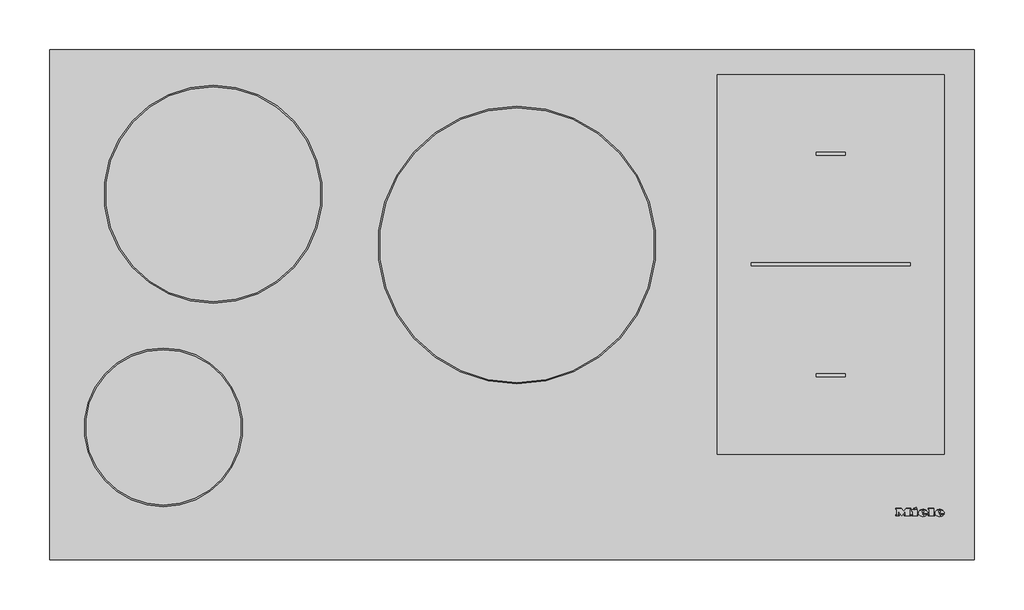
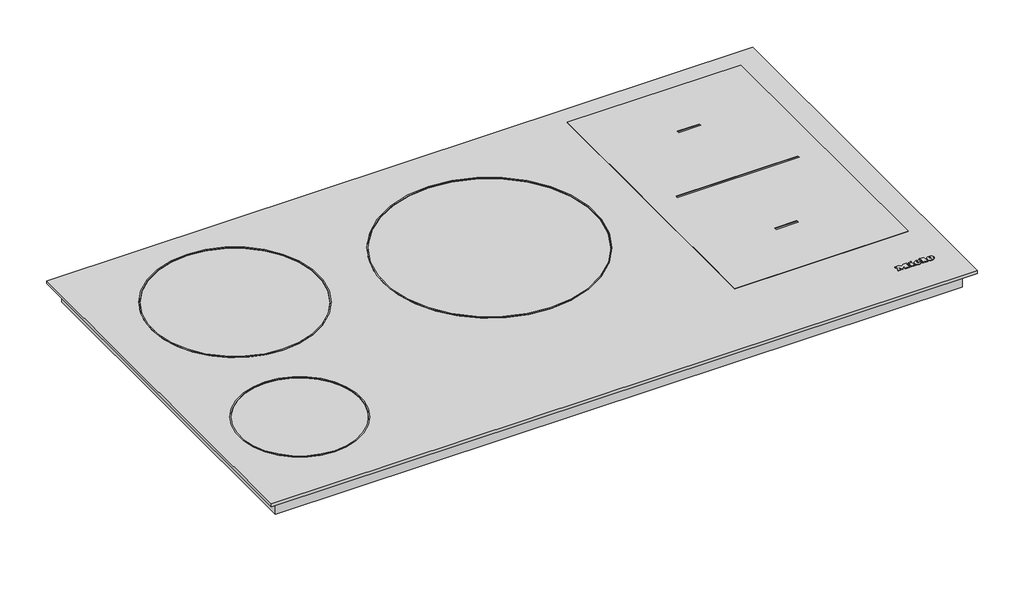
# Not in any storey: 1 proxy.
"""IFC4 building model written with IfcOpenShell, lengths in millimetres."""

import ifcopenshell
import ifcopenshell.guid

model = None  # the IFC model being written
_history = None  # IfcOwnerHistory: only IFC2X3 demands one
_inside = {}  # id of a spatial element -> (the spatial element, [elements in it])
_under = {}  # id of a project, library or spatial element -> (it, [spatial elements below it])
_declared = {}  # id of a project -> (the project, [libraries it declares])
_typed = {}  # id of a type object -> (the type object, [elements of that type])
_made_of = {}  # id of a material, layer set ... -> (it, [elements and type objects made of it])


def new_model(schema):
    """Start an empty IFC model of exactly this schema.

    Asked for "IFC4X3", IfcOpenShell would pick the latest addendum, in which some entities
    have other attributes; the version numbers below select the first issue.
    IFC2X3 requires an IfcOwnerHistory on every rooted entity: one is made here for all.
    """
    global model, _history
    if schema == "IFC4X3":
        model = ifcopenshell.file(schema_version=(4, 3, 0, 0))
    else:
        model = ifcopenshell.file(schema=schema)
    _inside.clear()
    _under.clear()
    _declared.clear()
    _typed.clear()
    _made_of.clear()
    _history = None
    if model.schema == "IFC2X3":
        org = make("IfcOrganization", Name="unknown")
        user = make(
            "IfcPersonAndOrganization",
            ThePerson=make("IfcPerson", FamilyName="unknown"),
            TheOrganization=org,
        )
        app = make(
            "IfcApplication",
            ApplicationDeveloper=org,
            Version="unknown",
            ApplicationFullName="unknown",
            ApplicationIdentifier="unknown",
        )
        _history = make(
            "IfcOwnerHistory",
            OwningUser=user,
            OwningApplication=app,
            ChangeAction="ADDED",
            CreationDate=0,
        )
    return model


def make(cls, **values):
    """One entity of the class cls with the attributes given. An attribute that is None is left unset."""
    return model.create_entity(
        cls, **{name: value for name, value in values.items() if value is not None}
    )


def rooted(cls, **values):
    """An entity with a GlobalId (a new one), such as an element, a storey or a relation."""
    return make(cls, GlobalId=ifcopenshell.guid.new(), OwnerHistory=_history, **values)


def si_unit(unit_type, name, prefix=None):
    """IfcSIUnit, for example si_unit("LENGTHUNIT", "METRE", prefix="MILLI")."""
    return make("IfcSIUnit", UnitType=unit_type, Prefix=prefix, Name=name)


def assignment(units):
    """IfcUnitAssignment: the units of a project."""
    return None if units is None else make("IfcUnitAssignment", Units=units)


def point(xyz):
    """IfcCartesianPoint."""
    return None if xyz is None else make("IfcCartesianPoint", Coordinates=xyz)


def direction(xyz):
    """IfcDirection."""
    return None if xyz is None else make("IfcDirection", DirectionRatios=xyz)


def frame(location, z_axis=None, x_axis=None):
    """IfcAxis2Placement3D, a coordinate frame: its origin and axes. An axis left out is left unset."""
    return make(
        "IfcAxis2Placement3D",
        Location=point(location),
        Axis=direction(z_axis),
        RefDirection=direction(x_axis),
    )


def frame_2d(location, x_axis=None):
    """IfcAxis2Placement2D, a coordinate frame in the plane: its origin and x axis."""
    return make(
        "IfcAxis2Placement2D", Location=point(location), RefDirection=direction(x_axis)
    )


def origin():
    """The frame at (0, 0, 0) with its axes left unset."""
    return frame((0.0, 0.0, 0.0))


def origin_with_axes():
    """The frame at (0, 0, 0) with the z axis (0, 0, 1) and the x axis (1, 0, 0) written out."""
    return frame((0.0, 0.0, 0.0), z_axis=(0.0, 0.0, 1.0), x_axis=(1.0, 0.0, 0.0))


def place(relative_to, where):
    """IfcLocalPlacement: puts the frame where relative to a parent placement (None: the world)."""
    return make(
        "IfcLocalPlacement", PlacementRelTo=relative_to, RelativePlacement=where
    )


def context(
    kind, dimensions, precision=None, world=None, true_north=None, identifier=None
):
    """IfcGeometricRepresentationContext, for example the 3D "Model" context."""
    return make(
        "IfcGeometricRepresentationContext",
        ContextIdentifier=identifier,
        ContextType=kind,
        CoordinateSpaceDimension=dimensions,
        Precision=precision,
        WorldCoordinateSystem=world,
        TrueNorth=true_north,
    )


def project(units=None, contexts=None):
    """IfcProject with its units and contexts."""
    return rooted(
        "IfcProject",
        Name="project",
        RepresentationContexts=contexts,
        UnitsInContext=assignment(units),
    )


def spatial(cls, under=None, at=None, **own):
    """A site, building, storey or space (cls), placed at a placement, below another one or the project."""
    s = rooted(cls, ObjectPlacement=at, **own)
    if under is not None:
        _under.setdefault(under.id(), (under, []))[1].append(s)
    return s


def polyline(points):
    """IfcPolyline through the points."""
    return make("IfcPolyline", Points=[point(p) for p in points])


def circle_curve(where, radius):
    """IfcCircle in the frame where."""
    return make("IfcCircle", Position=where, Radius=radius)


def ellipse_curve(where, semi_axis1, semi_axis2):
    """IfcEllipse in the frame where."""
    return make(
        "IfcEllipse", Position=where, SemiAxis1=semi_axis1, SemiAxis2=semi_axis2
    )


def trimmed(basis, trim1, trim2, sense, master):
    """IfcTrimmedCurve: the piece of a basis curve between two trims."""
    return make(
        "IfcTrimmedCurve",
        BasisCurve=basis,
        Trim1=trim1,
        Trim2=trim2,
        SenseAgreement=sense,
        MasterRepresentation=master,
    )


def segment(curve, same_sense, transition):
    """IfcCompositeCurveSegment."""
    return make(
        "IfcCompositeCurveSegment",
        Transition=transition,
        SameSense=same_sense,
        ParentCurve=curve,
    )


def composite_curve(segments, self_intersect=None):
    """IfcCompositeCurve: segments joined end to end."""
    return make("IfcCompositeCurve", Segments=segments, SelfIntersect=self_intersect)


def outline(outer, holes=None, kind="AREA"):
    """IfcArbitraryClosedProfileDef: a profile drawn as a closed curve; with holes, ...WithVoids."""
    if holes is None:
        return make("IfcArbitraryClosedProfileDef", ProfileType=kind, OuterCurve=outer)
    return make(
        "IfcArbitraryProfileDefWithVoids",
        ProfileType=kind,
        OuterCurve=outer,
        InnerCurves=holes,
    )


def extrude(swept, where, along, depth):
    """IfcExtrudedAreaSolid: the profile swept, set in the frame where, extruded along a direction by depth."""
    return make(
        "IfcExtrudedAreaSolid",
        SweptArea=swept,
        Position=where,
        ExtrudedDirection=direction(along),
        Depth=depth,
    )


def shape(context_of_items, identifier, shape_type, items):
    """IfcShapeRepresentation: the items that make up one representation, for example the "Body"."""
    return make(
        "IfcShapeRepresentation",
        ContextOfItems=context_of_items,
        RepresentationIdentifier=identifier,
        RepresentationType=shape_type,
        Items=items,
    )


def source(mapping_origin, context_of_items, identifier, shape_type, items):
    """IfcRepresentationMap: a shape defined once, which mapped items show again and again."""
    return make(
        "IfcRepresentationMap",
        MappingOrigin=mapping_origin,
        MappedRepresentation=shape(context_of_items, identifier, shape_type, items),
    )


def transform(
    local_origin,
    x_axis=None,
    y_axis=None,
    z_axis=None,
    scale=None,
    scale2=None,
    scale3=None,
    uniform=True,
):
    """IfcCartesianTransformationOperator3D, or its non-uniform kind. x_axis, y_axis, z_axis: its Axis1, 2, 3."""
    if uniform:
        return make(
            "IfcCartesianTransformationOperator3D",
            Axis1=direction(x_axis),
            Axis2=direction(y_axis),
            LocalOrigin=point(local_origin),
            Scale=scale,
            Axis3=direction(z_axis),
        )
    return make(
        "IfcCartesianTransformationOperator3DnonUniform",
        Axis1=direction(x_axis),
        Axis2=direction(y_axis),
        LocalOrigin=point(local_origin),
        Scale=scale,
        Axis3=direction(z_axis),
        Scale2=scale2,
        Scale3=scale3,
    )


def mapped(mapping_source, mapping_target):
    """IfcMappedItem: shows the shape of a source again, moved by a transform."""
    return make(
        "IfcMappedItem", MappingSource=mapping_source, MappingTarget=mapping_target
    )


def made_of(thing, what):
    """Note that an element or type object is made of a material, layer set ...; save() writes the relation."""
    if what is not None:
        _made_of.setdefault(what.id(), (what, []))[1].append(thing)
    return thing


def element(
    cls,
    number,
    at=None,
    inside=None,
    cuts=None,
    type_object=None,
    material=None,
    context=None,
    identifier="Body",
    shape_type=None,
    held_by="IfcProductDefinitionShape",
    body=None,
    shapes=None,
    **own,
):
    """One element of the class cls, such as IfcWall. Its Tag is "e" and its number.

    at: its placement. inside: the storey or other place that contains it. cuts: it is an
    opening in that element (IfcRelVoidsElement). A single representation is given by context,
    identifier, shape_type and body (its items); several are given by shapes. held_by: the class
    of the entity that holds the representations. save() writes the other relations.
    """
    e = rooted(cls, Tag="e%d" % number, ObjectPlacement=at, **own)
    if body is not None:
        shapes = [shape(context, identifier, shape_type, body)]
    if shapes is not None:
        e.Representation = make(held_by, Representations=shapes)
    if inside is not None:
        _inside.setdefault(inside.id(), (inside, []))[1].append(e)
    if cuts is not None:
        rooted(
            "IfcRelVoidsElement", RelatingBuildingElement=cuts, RelatedOpeningElement=e
        )
    if type_object is not None:
        _typed.setdefault(type_object.id(), (type_object, []))[1].append(e)
    return made_of(e, material)


def aggregate(whole, parts):
    """IfcRelAggregates: a whole, such as a stair, and the parts it consists of."""
    return rooted("IfcRelAggregates", RelatingObject=whole, RelatedObjects=parts)


def save(model, path):
    """Write the relations noted so far, then the file.

    IfcRelAggregates (storeys below a building ...), IfcRelContainedInSpatialStructure (elements
    in a storey), IfcRelDefinesByType, IfcRelAssociatesMaterial and IfcRelDeclares: one each for
    every whole, place, type object, material and project.
    """
    for whole, parts in _under.values():
        aggregate(whole, parts)
    for where, things in _inside.values():
        rooted(
            "IfcRelContainedInSpatialStructure",
            RelatedElements=things,
            RelatingStructure=where,
        )
    for kind, things in _typed.values():
        rooted("IfcRelDefinesByType", RelatedObjects=things, RelatingType=kind)
    for what, things in _made_of.values():
        rooted("IfcRelAssociatesMaterial", RelatedObjects=things, RelatingMaterial=what)
    for by, libraries in _declared.values():
        rooted("IfcRelDeclares", RelatingContext=by, RelatedDefinitions=libraries)
    model.write(path)


def plane_surface(at):
    """IfcPlane: the flat surface through the origin of the frame at, square to its z axis."""
    return make("IfcPlane", Position=at)


def cylinder_surface(at, radius):
    """IfcCylindricalSurface: all points at the distance radius from the z axis of the frame at."""
    return make("IfcCylindricalSurface", Position=at, Radius=radius)


def revolved_surface(curve, axis_point, axis_direction):
    """IfcSurfaceOfRevolution: the curve turned about the line through axis_point along axis_direction."""
    return make(
        "IfcSurfaceOfRevolution",
        SweptCurve=make("IfcArbitraryOpenProfileDef", ProfileType="CURVE", Curve=curve),
        AxisPosition=make("IfcAxis1Placement", Location=point(axis_point), Axis=direction(axis_direction)),
    )


def extruded_surface(curve, direction_of_extrusion, depth):
    """IfcSurfaceOfLinearExtrusion: the curve pushed along a direction by depth."""
    return make(
        "IfcSurfaceOfLinearExtrusion",
        SweptCurve=make("IfcArbitraryOpenProfileDef", ProfileType="CURVE", Curve=curve),
        ExtrudedDirection=direction(direction_of_extrusion),
        Depth=depth,
    )


def advanced_brep(points, edges, surfaces, faces):
    """IfcAdvancedBrep: a solid bounded by faces that lie on surfaces and meet in shared edges.

    An edge is (start, end): straight between two places in points (the first is 0);
    or (start, end, curve); or (start, end, curve, False) where it runs against its curve.
    A face is (place in surfaces, loops), or (place, loops, False) where it looks against
    its surface's normal. A loop lists edges by number (the first is 1), with a minus sign
    where the edge is run from its end to its start. The first loop is the outer one.
    """
    corners = [point(p) for p in points]
    vertices = [make("IfcVertexPoint", VertexGeometry=c) for c in corners]
    made = []
    for start, end, *more in edges:
        made.append(
            make(
                "IfcEdgeCurve",
                EdgeStart=vertices[start],
                EdgeEnd=vertices[end],
                EdgeGeometry=more[0] if more else make("IfcPolyline", Points=[corners[start], corners[end]]),
                SameSense=more[1] if len(more) > 1 else True,
            )
        )
    hull = []
    for where, loops, *sense in faces:
        bounds = []
        for j, loop in enumerate(loops):
            ring = [make("IfcOrientedEdge", EdgeElement=made[abs(k) - 1], Orientation=k > 0) for k in loop]
            bounds.append(
                make(
                    "IfcFaceOuterBound" if j == 0 else "IfcFaceBound",
                    Bound=make("IfcEdgeLoop", EdgeList=ring),
                    Orientation=True,
                )
            )
        hull.append(make("IfcAdvancedFace", Bounds=bounds, FaceSurface=surfaces[where], SameSense=sense[0] if sense else True))
    return make("IfcAdvancedBrep", Outer=make("IfcClosedShell", CfsFaces=hull))


def specialty_equipment_fe1162e7(model_context):
    return source(origin(), model_context, "Body", "SolidModel", [
        advanced_brep(
        [(428.648, 45.8948833, 4.9922537), (428.648, 46.7028828, 4.9931551), (434.0, 46.7028828, 4.9931551), (424.688, 46.7028828, 4.9931551), (426.888, 43.9988845, 4.9901386), (433.864, 45.8948833, 4.9922537), (431.448, 45.8948833, 4.9922537), (429.544, 44.9988838, 4.9912542), (428.648, 47.7268821, 4.9942974), (428.648, 48.5988816, 4.9952701), (430.016, 48.5988816, 4.9952701), (430.016, 47.7268821, 4.9942974), (428.648, 45.8959988, 3.9922543), (429.544, 44.9999994, 3.9912548), (431.448, 45.8959988, 3.9922543), (433.864, 45.8959988, 3.9922543), (426.888, 44.0, 3.9901393), (424.688, 46.7039983, 3.9931557), (434.0, 46.7039983, 3.9931557), (428.648, 46.7039983, 3.9931557), (428.648, 47.7279977, 3.994298), (430.016, 47.7279977, 3.994298), (430.016, 48.5999971, 3.9952707), (428.648, 48.5999971, 3.9952707)],
        [
            (0, 1),
            (1, 2),
            (2, 3, ellipse_curve(frame((429.344, 46.7028828, 4.9931551), z_axis=(0.0, -0.0011155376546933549, 0.9999993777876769), x_axis=(-1.0, 0.0, 0.0)), 4.656, 3.848)),
            (3, 4, circle_curve(frame((427.7840436, 46.9748826, 4.9934585), z_axis=(0.0, -0.0011155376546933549, 0.9999993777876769), x_axis=(0.0, -0.9999993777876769, -0.0011155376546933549)), 3.1079688)),
            (4, 5, circle_curve(frame((429.2507936, 49.0868813, 4.9958145), z_axis=(0.0, -0.0011155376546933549, 0.9999993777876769), x_axis=(0.0, -0.9999993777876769, -0.0011155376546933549)), 5.6098607)),
            (5, 6),
            (6, 7, circle_curve(frame((429.9350588, 46.6388828, 4.9930837), z_axis=(0.0, 0.0011155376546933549, -0.9999993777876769), x_axis=(0.0, -0.9999993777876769, -0.0011155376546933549)), 1.6859795)),
            (7, 0, circle_curve(frame((429.544, 45.8948833, 4.9922537), z_axis=(0.0, 0.0011155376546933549, -0.9999993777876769), x_axis=(0.0, -0.9999993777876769, -0.0011155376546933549)), 0.896)),
            (8, 9),
            (9, 10, circle_curve(frame((429.332, 48.5988816, 4.9952701), z_axis=(0.0, 0.0011155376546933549, -0.9999993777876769), x_axis=(0.0, -0.9999993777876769, -0.0011155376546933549)), 0.684)),
            (10, 11),
            (11, 8),
            (12, 13, circle_curve(frame((429.544, 45.8959988, 3.9922543), z_axis=(0.0, -0.0011155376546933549, 0.9999993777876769), x_axis=(0.0, -0.9999993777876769, -0.0011155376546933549)), 0.896)),
            (13, 14, circle_curve(frame((429.9350588, 46.6399984, 3.9930843), z_axis=(0.0, -0.0011155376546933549, 0.9999993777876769), x_axis=(0.0, -0.9999993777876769, -0.0011155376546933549)), 1.6859795)),
            (14, 15),
            (15, 16, circle_curve(frame((429.2507936, 49.0879968, 3.9958151), z_axis=(0.0, 0.0011155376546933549, -0.9999993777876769), x_axis=(0.0, -0.9999993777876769, -0.0011155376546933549)), 5.6098607)),
            (16, 17, circle_curve(frame((427.7840436, 46.9759981, 3.9934591), z_axis=(0.0, 0.0011155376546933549, -0.9999993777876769), x_axis=(0.0, -0.9999993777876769, -0.0011155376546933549)), 3.1079688)),
            (17, 18, ellipse_curve(frame((429.344, 46.7039983, 3.9931557), z_axis=(0.0, 0.0011155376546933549, -0.9999993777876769), x_axis=(-1.0, 0.0, 0.0)), 4.656, 3.848)),
            (18, 19),
            (19, 12),
            (20, 21),
            (21, 22),
            (22, 23, circle_curve(frame((429.332, 48.5999971, 3.9952707), z_axis=(0.0, -0.0011155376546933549, 0.9999993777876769), x_axis=(0.0, -0.9999993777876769, -0.0011155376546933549)), 0.684)),
            (23, 20),
            (0, 12),
            (19, 1),
            (18, 2),
            (5, 15),
            (14, 6),
            (17, 3),
            (13, 7),
            (16, 4),
            (8, 20),
            (23, 9),
            (22, 10),
            (21, 11),
        ],
        [
            plane_surface(frame((428.648, 46.7028828, 4.9931551), z_axis=(0.0, -0.0011155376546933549, 0.9999993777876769), x_axis=(0.0, 0.9999993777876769, 0.0011155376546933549))),
            plane_surface(frame((428.648, 46.7039983, 3.9931557), z_axis=(0.0, 0.0011155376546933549, -0.9999993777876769), x_axis=(0.0, -0.9999993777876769, -0.0011155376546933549))),
            plane_surface(frame((428.648, 45.8948833, 4.9922537), z_axis=(1.0000000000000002, 0.0, 0.0), x_axis=(0.0, 0.001115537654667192, -0.999999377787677))),
            plane_surface(frame((428.648, 46.7028828, 4.9931551), z_axis=(0.0, -0.999999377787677, -0.001115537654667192), x_axis=(0.0, 0.001115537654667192, -0.999999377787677))),
            plane_surface(frame((433.864, 45.8948833, 4.9922537), z_axis=(0.0, 0.999999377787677, 0.001115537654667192), x_axis=(0.0, 0.001115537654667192, -0.999999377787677))),
            extruded_surface(trimmed(ellipse_curve(frame((429.344, 46.7051139, 2.9931563), z_axis=(0.0, -0.0011155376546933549, 0.9999993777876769), x_axis=(-1.0, 0.0, 0.0)), 4.656, 3.848), [point((434.0, 46.7051139, 2.9931563))], [point((424.688, 46.7051139, 2.9931563))], True, "CARTESIAN"), (0.0, -0.001115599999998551, 0.9999994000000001), 1.00000002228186),
            revolved_surface(polyline([(429.9350588, 44.954019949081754, 3.991203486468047), (429.9350588, 44.95290441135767, 4.99120292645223)]), (429.9350588, 46.6399984, 3.9930843), (0.0, 0.0011155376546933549, -0.9999993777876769)),
            revolved_surface(polyline([(429.544, 44.99999935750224, 3.9912547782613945), (429.544, 44.99888381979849, 4.991254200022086)]), (429.544, 45.8959988, 3.9922543), (0.0, 0.0011155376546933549, -0.9999993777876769)),
            cylinder_surface(frame((427.7840436, 46.9759981, 3.9934591), z_axis=(0.0, -0.0011155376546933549, 0.9999993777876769), x_axis=(0.0, -0.9999993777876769, -0.0011155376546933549)), 3.1079688),
            cylinder_surface(frame((429.2507936, 49.0879968, 3.9958151), z_axis=(0.0, -0.0011155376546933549, 0.9999993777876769), x_axis=(0.0, -0.9999993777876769, -0.0011155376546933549)), 5.6098607),
            plane_surface(frame((428.648, 47.7268821, 4.9942974), z_axis=(1.0000000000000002, 0.0, 0.0), x_axis=(0.0, 0.001115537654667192, -0.999999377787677))),
            revolved_surface(polyline([(429.332, 47.915997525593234, 3.9945076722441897), (429.332, 47.91488198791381, 4.994507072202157)]), (429.332, 48.5999971, 3.9952707), (0.0, 0.0011155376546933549, -0.9999993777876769)),
            plane_surface(frame((430.016, 48.5988816, 4.9952701), z_axis=(-1.0000000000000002, 0.0, 0.0), x_axis=(0.0, 0.001115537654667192, -0.999999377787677))),
            plane_surface(frame((430.016, 47.7268821, 4.9942974), z_axis=(0.0, 0.999999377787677, 0.001115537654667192), x_axis=(0.0, 0.001115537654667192, -0.999999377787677))),
        ],
        [
            (0, [[1, 2, 3, 4, 5, 6, 7, 8], [9, 10, 11, 12]]),
            (1, [[13, 14, 15, 16, 17, 18, 19, 20], [21, 22, 23, 24]]),
            (2, [[-1, 25, -20, 26]]),
            (3, [[-2, -26, -19, 27]]),
            (4, [[-6, 28, -15, 29]]),
            (5, [[-3, -27, -18, 30]]),
            (6, [[-7, -29, -14, 31]]),
            (7, [[-8, -31, -13, -25]]),
            (8, [[-4, -30, -17, 32]]),
            (9, [[-5, -32, -16, -28]]),
            (10, [[-9, 33, -24, 34]]),
            (11, [[-10, -34, -23, 35]]),
            (12, [[-11, -35, -22, 36]]),
            (13, [[-12, -36, -21, -33]]),
        ],
    ),
        advanced_brep(
        [(411.952, 45.8948833, 4.9922537), (411.952, 46.7028828, 4.9931551), (417.304, 46.7028828, 4.9931551), (407.992, 46.7028828, 4.9931551), (410.192, 43.9988845, 4.9901386), (417.168, 45.8948833, 4.9922537), (414.752, 45.8948833, 4.9922537), (412.848, 44.9988838, 4.9912542), (411.952, 47.7268821, 4.9942974), (411.952, 48.5988816, 4.9952701), (413.32, 48.5988816, 4.9952701), (413.32, 47.7268821, 4.9942974), (411.952, 45.8959988, 3.9922543), (412.848, 44.9999994, 3.9912548), (414.752, 45.8959988, 3.9922543), (417.168, 45.8959988, 3.9922543), (410.192, 44.0, 3.9901393), (407.992, 46.7039983, 3.9931557), (417.304, 46.7039983, 3.9931557), (411.952, 46.7039983, 3.9931557), (411.952, 47.7279977, 3.994298), (413.32, 47.7279977, 3.994298), (413.32, 48.5999971, 3.9952707), (411.952, 48.5999971, 3.9952707)],
        [
            (0, 1),
            (1, 2),
            (2, 3, ellipse_curve(frame((412.648, 46.7028828, 4.9931551), z_axis=(0.0, -0.0011155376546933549, 0.9999993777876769), x_axis=(-1.0, 0.0, 0.0)), 4.656, 3.848)),
            (3, 4, circle_curve(frame((411.0880436, 46.9748826, 4.9934585), z_axis=(0.0, -0.0011155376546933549, 0.9999993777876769), x_axis=(0.0, -0.9999993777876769, -0.0011155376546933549)), 3.1079688)),
            (4, 5, circle_curve(frame((412.5547936, 49.0868813, 4.9958145), z_axis=(0.0, -0.0011155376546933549, 0.9999993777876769), x_axis=(0.0, -0.9999993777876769, -0.0011155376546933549)), 5.6098607)),
            (5, 6),
            (6, 7, circle_curve(frame((413.2390588, 46.6388828, 4.9930837), z_axis=(0.0, 0.0011155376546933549, -0.9999993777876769), x_axis=(0.0, -0.9999993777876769, -0.0011155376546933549)), 1.6859795)),
            (7, 0, circle_curve(frame((412.848, 45.8948833, 4.9922537), z_axis=(0.0, 0.0011155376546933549, -0.9999993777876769), x_axis=(0.0, -0.9999993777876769, -0.0011155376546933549)), 0.896)),
            (8, 9),
            (9, 10, circle_curve(frame((412.636, 48.5988816, 4.9952701), z_axis=(0.0, 0.0011155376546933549, -0.9999993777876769), x_axis=(0.0, -0.9999993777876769, -0.0011155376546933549)), 0.684)),
            (10, 11),
            (11, 8),
            (12, 13, circle_curve(frame((412.848, 45.8959988, 3.9922543), z_axis=(0.0, -0.0011155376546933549, 0.9999993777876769), x_axis=(0.0, -0.9999993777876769, -0.0011155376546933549)), 0.896)),
            (13, 14, circle_curve(frame((413.2390588, 46.6399984, 3.9930843), z_axis=(0.0, -0.0011155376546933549, 0.9999993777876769), x_axis=(0.0, -0.9999993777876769, -0.0011155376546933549)), 1.6859795)),
            (14, 15),
            (15, 16, circle_curve(frame((412.5547936, 49.0879968, 3.9958151), z_axis=(0.0, 0.0011155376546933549, -0.9999993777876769), x_axis=(0.0, -0.9999993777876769, -0.0011155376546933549)), 5.6098607)),
            (16, 17, circle_curve(frame((411.0880436, 46.9759981, 3.9934591), z_axis=(0.0, 0.0011155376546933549, -0.9999993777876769), x_axis=(0.0, -0.9999993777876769, -0.0011155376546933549)), 3.1079688)),
            (17, 18, ellipse_curve(frame((412.648, 46.7039983, 3.9931557), z_axis=(0.0, 0.0011155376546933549, -0.9999993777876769), x_axis=(-1.0, 0.0, 0.0)), 4.656, 3.848)),
            (18, 19),
            (19, 12),
            (20, 21),
            (21, 22),
            (22, 23, circle_curve(frame((412.636, 48.5999971, 3.9952707), z_axis=(0.0, -0.0011155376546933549, 0.9999993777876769), x_axis=(0.0, -0.9999993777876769, -0.0011155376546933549)), 0.684)),
            (23, 20),
            (0, 12),
            (19, 1),
            (18, 2),
            (5, 15),
            (14, 6),
            (17, 3),
            (13, 7),
            (16, 4),
            (8, 20),
            (23, 9),
            (22, 10),
            (21, 11),
        ],
        [
            plane_surface(frame((411.952, 46.7028828, 4.9931551), z_axis=(0.0, -0.0011155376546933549, 0.9999993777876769), x_axis=(0.0, 0.9999993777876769, 0.0011155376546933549))),
            plane_surface(frame((411.952, 46.7039983, 3.9931557), z_axis=(0.0, 0.0011155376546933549, -0.9999993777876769), x_axis=(0.0, -0.9999993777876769, -0.0011155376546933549))),
            plane_surface(frame((411.952, 45.8948833, 4.9922537), z_axis=(1.0000000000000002, 0.0, 0.0), x_axis=(0.0, 0.001115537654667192, -0.999999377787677))),
            plane_surface(frame((411.952, 46.7028828, 4.9931551), z_axis=(0.0, -0.999999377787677, -0.001115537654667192), x_axis=(0.0, 0.001115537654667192, -0.999999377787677))),
            plane_surface(frame((417.168, 45.8948833, 4.9922537), z_axis=(0.0, 0.999999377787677, 0.001115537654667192), x_axis=(0.0, 0.001115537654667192, -0.999999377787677))),
            extruded_surface(trimmed(ellipse_curve(frame((412.648, 46.7051139, 2.9931563), z_axis=(0.0, -0.0011155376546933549, 0.9999993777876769), x_axis=(-1.0, 0.0, 0.0)), 4.656, 3.848), [point((417.304, 46.7051139, 2.9931563))], [point((407.992, 46.7051139, 2.9931563))], True, "CARTESIAN"), (0.0, -0.001115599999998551, 0.9999994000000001), 1.00000002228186),
            revolved_surface(polyline([(413.2390588, 44.954019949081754, 3.991203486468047), (413.2390588, 44.95290441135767, 4.99120292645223)]), (413.2390588, 46.6399984, 3.9930843), (0.0, 0.0011155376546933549, -0.9999993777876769)),
            revolved_surface(polyline([(412.848, 44.99999935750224, 3.9912547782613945), (412.848, 44.99888381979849, 4.991254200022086)]), (412.848, 45.8959988, 3.9922543), (0.0, 0.0011155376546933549, -0.9999993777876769)),
            cylinder_surface(frame((411.0880436, 46.9759981, 3.9934591), z_axis=(0.0, -0.0011155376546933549, 0.9999993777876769), x_axis=(0.0, -0.9999993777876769, -0.0011155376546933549)), 3.1079688),
            cylinder_surface(frame((412.5547936, 49.0879968, 3.9958151), z_axis=(0.0, -0.0011155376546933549, 0.9999993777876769), x_axis=(0.0, -0.9999993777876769, -0.0011155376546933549)), 5.6098607),
            plane_surface(frame((411.952, 47.7268821, 4.9942974), z_axis=(1.0000000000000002, 0.0, 0.0), x_axis=(0.0, 0.001115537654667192, -0.999999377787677))),
            revolved_surface(polyline([(412.636, 47.915997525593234, 3.9945076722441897), (412.636, 47.91488198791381, 4.994507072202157)]), (412.636, 48.5999971, 3.9952707), (0.0, 0.0011155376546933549, -0.9999993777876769)),
            plane_surface(frame((413.32, 48.5988816, 4.9952701), z_axis=(-1.0000000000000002, 0.0, 0.0), x_axis=(0.0, 0.001115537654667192, -0.999999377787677))),
            plane_surface(frame((413.32, 47.7268821, 4.9942974), z_axis=(0.0, 0.999999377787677, 0.001115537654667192), x_axis=(0.0, 0.001115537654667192, -0.999999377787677))),
        ],
        [
            (0, [[1, 2, 3, 4, 5, 6, 7, 8], [9, 10, 11, 12]]),
            (1, [[13, 14, 15, 16, 17, 18, 19, 20], [21, 22, 23, 24]]),
            (2, [[-1, 25, -20, 26]]),
            (3, [[-2, -26, -19, 27]]),
            (4, [[-6, 28, -15, 29]]),
            (5, [[-3, -27, -18, 30]]),
            (6, [[-7, -29, -14, 31]]),
            (7, [[-8, -31, -13, -25]]),
            (8, [[-4, -30, -17, 32]]),
            (9, [[-5, -32, -16, -28]]),
            (10, [[-9, 33, -24, 34]]),
            (11, [[-10, -34, -23, 35]]),
            (12, [[-11, -35, -22, 36]]),
            (13, [[-12, -36, -21, -33]]),
        ],
    ),
        extrude(outline(polyline([(0.0, 0.0), (-0.0109086, -2.9993294), (-1.4390415, -2.9920868), (-1.4315307, 0.0), (0.0, 0.0)])), frame((403.208, 51.5279953, 3.998537), z_axis=(0.0, -0.001115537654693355, 0.999999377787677), x_axis=(-0.4247202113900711, 0.9053240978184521, 0.0010099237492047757)), (0.0, 0.0, 1.0), 1.0),
        extrude(outline(polyline([(-0.4933908, 2.4141097), (-2.7800844, -2.4601583), (-7.0459741, -0.4588767), (-7.4401145, -1.299018), (-8.6568709, -0.728194), (-5.9760369, 4.9862153), (-4.7592805, 4.4153913), (-5.1636142, 3.5535222), (-2.1941493, 2.1604399), (-1.7898157, 3.022309), (-0.4933908, 2.4141097)])), frame((403.208, 51.5279953, 3.998537), z_axis=(0.0, -0.001115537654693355, 0.999999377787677), x_axis=(-0.4247202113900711, 0.9053240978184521, 0.0010099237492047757)), (0.0, 0.0, 1.0), 1.0),
        extrude(outline(polyline([(0.0, 0.0), (0.0, -1.304), (-5.504, -1.304), (-5.504, 5.3519999), (-6.488, 5.3519999), (-6.488, 6.696), (0.0, 6.696), (0.0, 5.3519999), (-0.96, 5.3519999), (-0.96, 0.0), (0.0, 0.0)])), frame((417.752, 50.6959958, 3.9976089), z_axis=(0.0, -0.0011155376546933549, 0.9999993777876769), x_axis=(-1.0, 0.0, 0.0)), (0.0, 0.0, 1.0), 1.0),
        extrude(outline(polyline([(0.0, 0.0), (0.0, -1.304), (-5.576, -1.304), (-7.92, 1.696), (-10.256, -1.304), (-15.128, -1.304), (-15.128, 0.0), (-14.112, 0.0), (-14.112, 5.3519999), (-15.128, 5.3519999), (-15.128, 6.696), (-8.744, 6.696), (-8.744, 5.3519999), (-9.728, 5.3519999), (-9.728, 1.8807777), (-6.136, 6.696), (-2.56, 1.9488752), (-2.56, 5.3519999), (-3.52, 5.3519999), (-3.52, 6.696), (0.0, 6.696), (0.0, 5.3519999), (-0.968, 5.3519999), (-0.968, 0.0), (0.0, 0.0)])), frame((385.288, 50.6959958, 3.9976089), z_axis=(0.0, -0.0011155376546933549, 0.9999993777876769), x_axis=(-1.0, 0.0, 0.0)), (0.0, 0.0, 1.0), 1.0),
        extrude(outline(polyline([(290.3772603, 424.0), (283.0, 424.0), (283.0, 425.2557039), (289.1215564, 425.2557039), (289.1215564, 428.5519266), (283.470889, 428.5519266), (283.470889, 429.8076304), (289.1215564, 429.8076304), (289.1215564, 432.7899271), (283.156963, 432.7899271), (283.156963, 434.045631), (290.3772603, 434.045631), (290.3772603, 424.0)])), frame((0.0, 0.0, -78.0), z_axis=(0.0, 0.0, 1.0), x_axis=(1.0, 0.0, 0.0)), (0.0, 0.0, 1.0), 1.0),
        extrude(outline(polyline([(281.1164442, 424.0), (274.8379248, 424.0), (274.8379248, 425.2557039), (279.8607403, 425.2557039), (279.8607403, 434.045631), (281.1164442, 434.045631), (281.1164442, 424.0)])), frame((0.0, 0.0, -78.0), z_axis=(0.0, 0.0, 1.0), x_axis=(1.0, 0.0, 0.0)), (0.0, 0.0, 1.0), 1.0),
        extrude(outline(polyline([(464.0, 512.0), (464.0, 0.0), (-464.0, 0.0), (-464.0, 512.0), (464.0, 512.0)])), origin_with_axes(), (0.0, 0.0, 1.0), 4.0),
        extrude(outline(polyline([(451.5, 499.5), (451.5, 12.5), (-451.5, 12.5), (-451.5, 499.5), (451.5, 499.5)])), frame((0.0, 0.0, -22.0), z_axis=(0.0, 0.0, 1.0), x_axis=(1.0, 0.0, 0.0)), (0.0, 0.0, 1.0), 22.0),
        extrude(outline(composite_curve([segment(trimmed(circle_curve(frame_2d((5.0, 316.0)), 139.5), [point((5.0, 455.5))], [point((5.0, 176.5))], False, "CARTESIAN"), True, "CONTINUOUS"), segment(trimmed(circle_curve(frame_2d((5.0, 316.0)), 139.5), [point((5.0, 176.5))], [point((5.0, 455.5))], False, "CARTESIAN"), True, "CONTINUOUS")], self_intersect=False), holes=[composite_curve([segment(trimmed(circle_curve(frame_2d((5.0, 316.0)), 138.0), [point((5.0, 454.0))], [point((5.0, 178.0))], True, "CARTESIAN"), True, "CONTINUOUS"), segment(trimmed(circle_curve(frame_2d((5.0, 316.0)), 138.0), [point((5.0, 178.0))], [point((5.0, 454.0))], True, "CARTESIAN"), True, "CONTINUOUS")], self_intersect=False)]), frame((0.0, 0.0, 4.0), z_axis=(0.0, 0.0, 1.0), x_axis=(1.0, 0.0, 0.0)), (0.0, 0.0, 1.0), 1.0),
        extrude(outline(composite_curve([segment(trimmed(circle_curve(frame_2d((-300.0, 367.0)), 109.5), [point((-300.0, 476.5))], [point((-300.0, 257.5))], False, "CARTESIAN"), True, "CONTINUOUS"), segment(trimmed(circle_curve(frame_2d((-300.0, 367.0)), 109.5), [point((-300.0, 257.5))], [point((-300.0, 476.5))], False, "CARTESIAN"), True, "CONTINUOUS")], self_intersect=False), holes=[composite_curve([segment(trimmed(circle_curve(frame_2d((-300.0, 367.0)), 108.0), [point((-300.0, 475.0))], [point((-300.0, 259.0))], True, "CARTESIAN"), True, "CONTINUOUS"), segment(trimmed(circle_curve(frame_2d((-300.0, 367.0)), 108.0), [point((-300.0, 259.0))], [point((-300.0, 475.0))], True, "CARTESIAN"), True, "CONTINUOUS")], self_intersect=False)]), frame((0.0, 0.0, 4.0), z_axis=(0.0, 0.0, 1.0), x_axis=(1.0, 0.0, 0.0)), (0.0, 0.0, 1.0), 1.0),
        extrude(outline(composite_curve([segment(trimmed(circle_curve(frame_2d((-350.0, 133.0)), 79.5), [point((-350.0, 212.5))], [point((-350.0, 53.5))], False, "CARTESIAN"), True, "CONTINUOUS"), segment(trimmed(circle_curve(frame_2d((-350.0, 133.0)), 79.5), [point((-350.0, 53.5))], [point((-350.0, 212.5))], False, "CARTESIAN"), True, "CONTINUOUS")], self_intersect=False), holes=[composite_curve([segment(trimmed(circle_curve(frame_2d((-350.0, 133.0)), 78.0), [point((-350.0, 211.0))], [point((-350.0, 55.0))], True, "CARTESIAN"), True, "CONTINUOUS"), segment(trimmed(circle_curve(frame_2d((-350.0, 133.0)), 78.0), [point((-350.0, 55.0))], [point((-350.0, 211.0))], True, "CARTESIAN"), True, "CONTINUOUS")], self_intersect=False)]), frame((0.0, 0.0, 4.0), z_axis=(0.0, 0.0, 1.0), x_axis=(1.0, 0.0, 0.0)), (0.0, 0.0, 1.0), 1.0),
        extrude(outline(polyline([(434.0, 487.0), (434.0, 106.0), (206.0, 106.0), (206.0, 487.0), (434.0, 487.0)]), holes=[polyline([(334.5, 409.0), (305.5, 409.0), (305.5, 406.0), (334.5, 406.0), (334.5, 409.0)]), polyline([(400.0, 295.0), (400.0, 298.0), (240.0, 298.0), (240.0, 295.0), (400.0, 295.0)]), polyline([(334.5, 187.0), (305.5, 187.0), (305.5, 184.0), (334.5, 184.0), (334.5, 187.0)])]), frame((0.0, 0.0, 4.0), z_axis=(0.0, 0.0, 1.0), x_axis=(1.0, 0.0, 0.0)), (0.0, 0.0, 1.0), 1.0),
        extrude(outline(composite_curve([segment(trimmed(circle_curve(frame_2d((283.0, 429.0)), 7.5), [point((283.0, 436.5))], [point((283.0, 421.5))], False, "CARTESIAN"), True, "CONTINUOUS"), segment(trimmed(circle_curve(frame_2d((283.0, 429.0)), 7.5), [point((283.0, 421.5))], [point((283.0, 436.5))], False, "CARTESIAN"), True, "CONTINUOUS")], self_intersect=False)), frame((0.0, 0.0, -77.0), z_axis=(0.0, 0.0, 1.0), x_axis=(1.0, 0.0, 0.0)), (0.0, 0.0, 1.0), 30.0),
        extrude(outline(polyline([(361.0, 463.0), (361.0, 92.0), (-361.0, 92.0), (-361.0, 463.0), (361.0, 463.0)])), frame((0.0, 0.0, -47.0), z_axis=(0.0, 0.0, 1.0), x_axis=(1.0, 0.0, 0.0)), (0.0, 0.0, 1.0), 25.0),
    ])


model = new_model("IFC4")

# Units and contexts
model_context = context("Model", 3, world=origin())
ifc_project = project(units=[si_unit("LENGTHUNIT", "METRE", prefix="MILLI")], contexts=[model_context])

# Site, building
site = spatial("IfcSite", under=ifc_project)
building = spatial("IfcBuilding", under=site)

# Proxy
placement = place(None, origin())
specialty_equipment_shape = specialty_equipment_fe1162e7(model_context)
element("IfcBuildingElementProxy", 1, Name="11512090_CH_KM7629FX : 26762960_CH_11512090_KM7629FX", ObjectType="11512090_CH_KM7629FX : 26762960_CH_11512090_KM7629FX", at=placement, inside=building, context=model_context, shape_type="MappedRepresentation", body=[
    mapped(specialty_equipment_shape, transform((0.0, 0.0, 0.0), x_axis=(1.0, 0.0, 0.0), y_axis=(0.0, 1.0, 0.0), z_axis=(0.0, 0.0, 1.0))),
])

save(model, "model.ifc")
